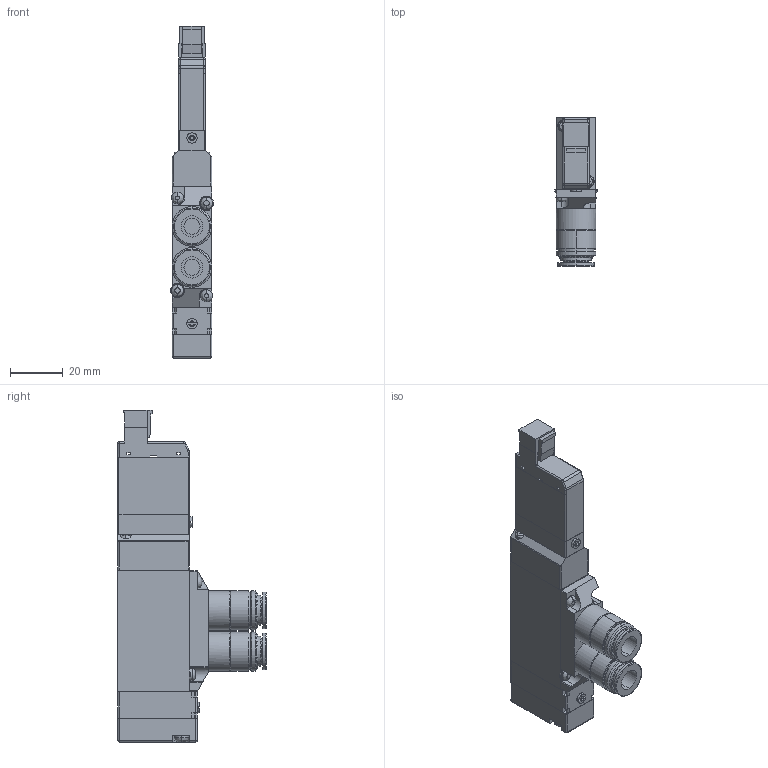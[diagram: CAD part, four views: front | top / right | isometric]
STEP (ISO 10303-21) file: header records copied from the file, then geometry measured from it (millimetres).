
FILE_DESCRIPTION( (''), '2;1');
FILE_NAME ('CVICAD02.3360.F15T2-FJ-PS_21726.stp','2021-07-12T19:14:02',(''),(''),'spGate 12.6.6','','');
FILE_SCHEMA (('AUTOMOTIVE_DESIGN'));
Length unit declared in the file: millimetre
Products named in the file (8): Assembly; CVICAD02-prt0; CVICAD02-prt1; CVICAD02-prt2; CVICAD02-prt3; CVICAD02-prt4; CVICAD02-prt5; CVICAD02-prt6
Assembly tree (7 placements, depth 2):
  Assembly
    CVICAD02-prt0
    CVICAD02-prt1
    CVICAD02-prt2
    CVICAD02-prt3
    CVICAD02-prt4
    CVICAD02-prt5
    CVICAD02-prt6
Bounding box: 16.2 x 56 x 125.5 mm (x, y, z)
Volume: 51469.1 mm3; surface area: 21081.9 mm2
Topology: 7 solids, 7 shells, 433 faces, 1078 edges, 679 vertices
Faces by surface type: plane 212, cylinder 152, bspline 64, sphere 5
Entity records: 22246 total; most frequent: CARTESIAN_POINT 3493, ORIENTED_EDGE 2138, DIRECTION 1989, COLOUR_RGB 1509, PRESENTATION_STYLE_ASSIGNMENT 1509, STYLED_ITEM 1509, EDGE_CURVE 1069, DRAUGHTING_PRE_DEFINED_CURVE_FONT 1069
